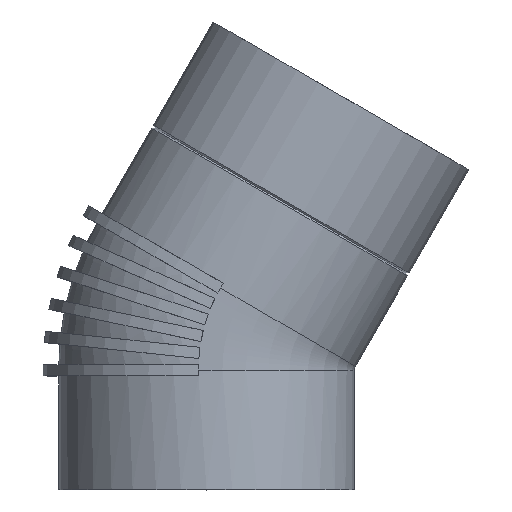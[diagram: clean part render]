
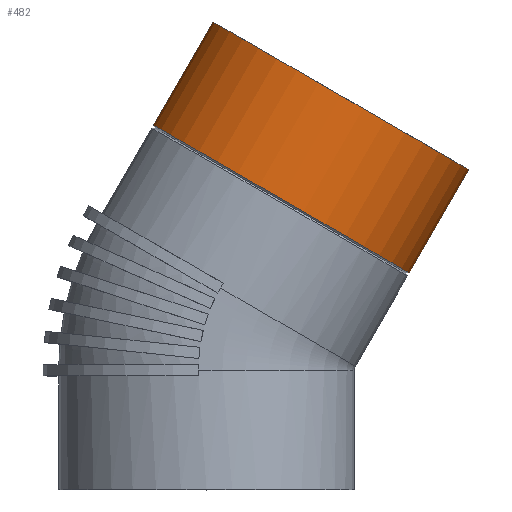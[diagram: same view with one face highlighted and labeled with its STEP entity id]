
A CAD part, top view. The second image highlights one B-rep face of the part: STEP entity #482.
In plain terms, the highlighted cylindrical face has radius 55 mm (diameter 110 mm), a full revolution.
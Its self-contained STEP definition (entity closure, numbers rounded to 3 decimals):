
#78=CYLINDRICAL_SURFACE($,#539,55.);
#94=FACE_BOUND($,#166,.T.);
#122=FACE_OUTER_BOUND($,#165,.T.);
#165=EDGE_LOOP($,(#420));
#166=EDGE_LOOP($,(#421));
#168=CIRCLE($,#488,55.);
#191=CIRCLE($,#538,55.);
#193=VERTEX_POINT($,#658);
#238=VERTEX_POINT($,#1173);
#240=EDGE_CURVE($,#193,#193,#168,.T.);
#299=EDGE_CURVE($,#238,#238,#191,.T.);
#420=ORIENTED_EDGE($,*,*,#240,.T.);
#421=ORIENTED_EDGE($,*,*,#299,.T.);
#482=ADVANCED_FACE($,(#122,#94),#78,.T.);
#488=AXIS2_PLACEMENT_3D($,#659,#546,#547);
#538=AXIS2_PLACEMENT_3D($,#1174,#650,#651);
#539=AXIS2_PLACEMENT_3D($,#1175,#652,#653);
#546=DIRECTION('center_axis',(0.5,0.866,0.));
#547=DIRECTION('ref_axis',(0.866,-0.5,0.));
#650=DIRECTION('center_axis',(-0.5,-0.866,0.));
#651=DIRECTION('ref_axis',(0.866,-0.5,0.));
#652=DIRECTION('center_axis',(-0.5,-0.866,0.));
#653=DIRECTION('ref_axis',(0.866,-0.5,0.));
#658=CARTESIAN_POINT('',(75.449,80.681,0.));
#659=CARTESIAN_POINT('Origin',(27.818,108.181,0.));
#1173=CARTESIAN_POINT('',(97.631,119.103,0.));
#1174=CARTESIAN_POINT('Origin',(50.,146.603,0.));
#1175=CARTESIAN_POINT('Origin',(28.885,110.031,0.));
